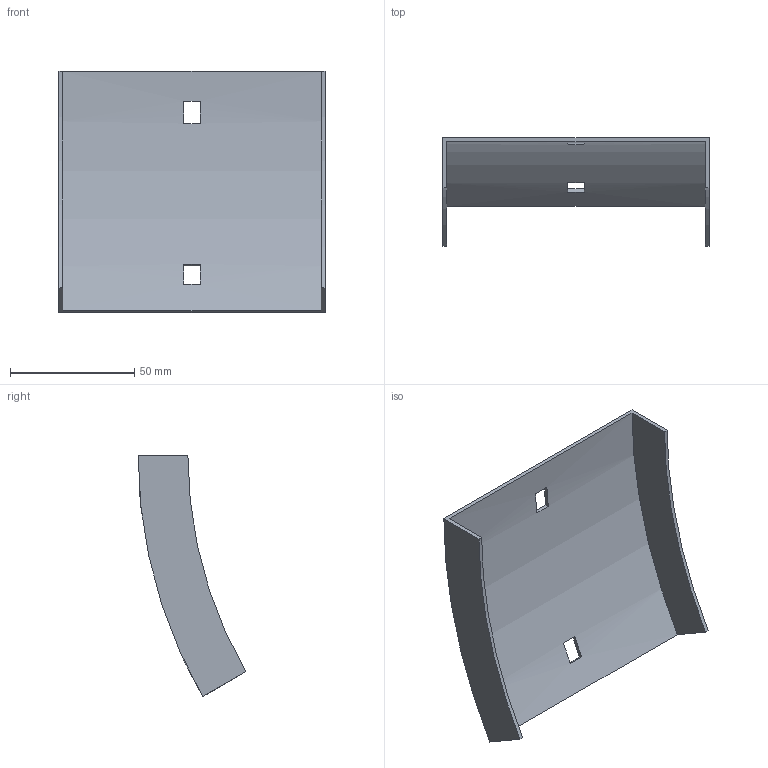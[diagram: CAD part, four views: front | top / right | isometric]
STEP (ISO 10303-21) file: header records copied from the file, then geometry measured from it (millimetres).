
FILE_DESCRIPTION (( 'STEP AP214' ), '1' );
FILE_NAME ('35N1I100.step', '2025-02-21T09:13:22', ( '' ), ( '' ), 'SwSTEP 2.0', 'SolidWorks 2023', '' );
FILE_SCHEMA (( 'AUTOMOTIVE_DESIGN' ));
Length unit declared in the file: millimetre
Products named in the file (1): 35N1I100
Bounding box: 107 x 43.31 x 97 mm (x, y, z)
Volume: 21389.3 mm3; surface area: 29318.9 mm2
Topology: 1 solids, 1 shells, 18 faces, 48 edges, 32 vertices
Faces by surface type: plane 14, cylinder 4
Entity records: 599 total; most frequent: DIRECTION 102, CARTESIAN_POINT 99, ORIENTED_EDGE 96, EDGE_CURVE 48, AXIS2_PLACEMENT_3D 35, VECTOR 32, LINE 32, VERTEX_POINT 32
